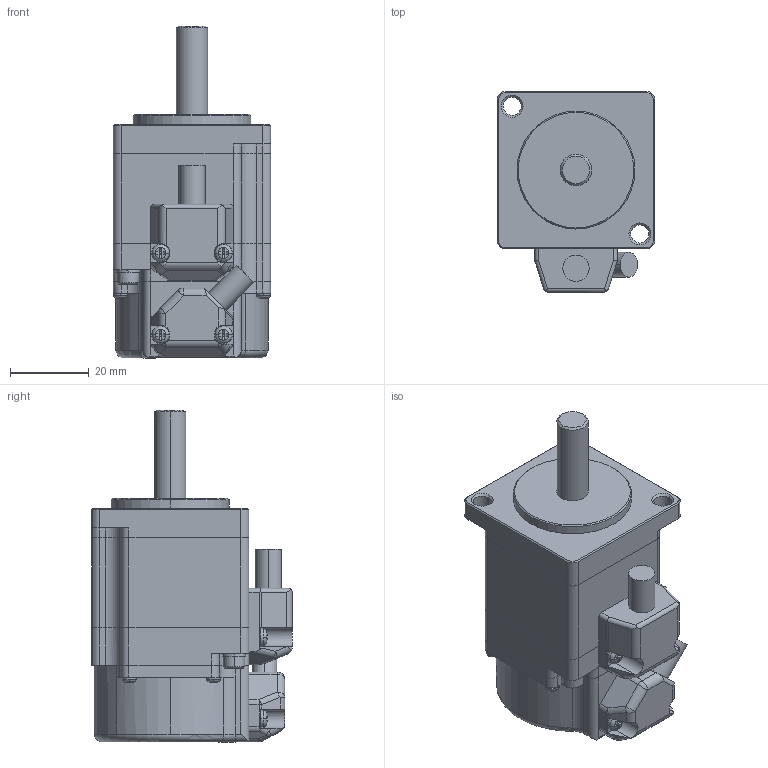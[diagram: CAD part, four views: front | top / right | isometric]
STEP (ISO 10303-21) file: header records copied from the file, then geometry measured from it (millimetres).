
FILE_DESCRIPTION(('Creo Elements/Direct Modeling STEP Export'),'2;1');
FILE_NAME('TS4602_BK無.stp','2016-12-22T16:12:11',(''),(''),'Creo Elements/Direct Modeling STEP processor for AP214 (Solid Model)','Creo Elements/Direct Modeling 17.0F 20-Aug-2012 (C) Parametric Technology GmbH','');
FILE_SCHEMA(('AUTOMOTIVE_DESIGN { 1 0 10303 214 1 1 1 1 }'));
Length unit declared in the file: millimetre
Products named in the file (1): TS4602N1000
Bounding box: 40 x 51.1 x 84.5 mm (x, y, z)
Volume: 93474.1 mm3; surface area: 14602.5 mm2
Topology: 1 solids, 1 shells, 564 faces, 1318 edges, 751 vertices
Faces by surface type: plane 265, cylinder 199, cone 50, sphere 31, torus 19
Entity records: 16427 total; most frequent: CARTESIAN_POINT 4137, DIRECTION 2603, ORIENTED_EDGE 2602, EDGE_CURVE 1301, AXIS2_PLACEMENT_3D 1022, VERTEX_POINT 751, EDGE_LOOP 584, FACE_OUTER_BOUND 564
